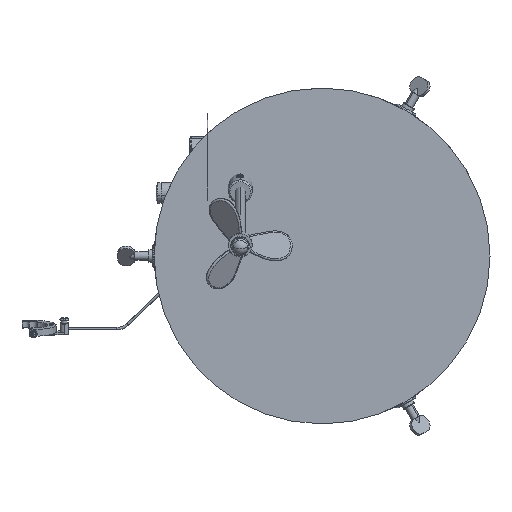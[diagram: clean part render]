
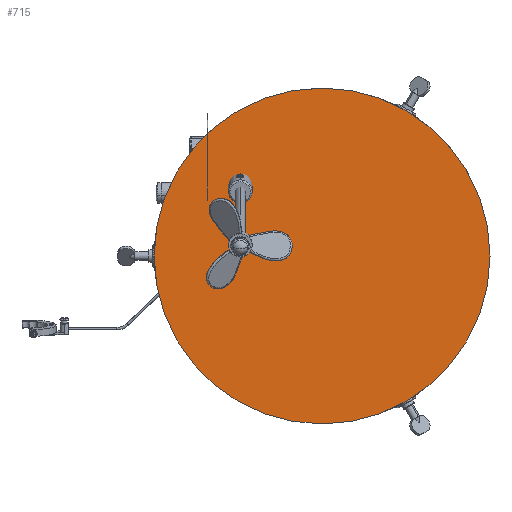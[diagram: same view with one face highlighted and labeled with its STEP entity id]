
A CAD part, front view. The second image highlights one B-rep face of the part: STEP entity #715.
In plain terms, the highlighted planar face has unit normal (0, -1, 0).
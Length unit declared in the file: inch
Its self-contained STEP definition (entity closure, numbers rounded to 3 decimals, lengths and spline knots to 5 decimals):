
#51=CARTESIAN_POINT('',(6.0935,0.,-6.09533));
#52=DIRECTION('',(0.,-1.,0.));
#53=DIRECTION('',(1.,0.,0.));
#54=AXIS2_PLACEMENT_3D('',#51,#52,#53);
#95=CARTESIAN_POINT('',(6.0935,0.,-6.09533));
#96=DIRECTION('',(0.,1.,0.));
#97=DIRECTION('',(1.,0.,0.));
#98=AXIS2_PLACEMENT_3D('',#95,#96,#97);
#622=CARTESIAN_POINT('',(12.2475,0.,-6.09533));
#624=VERTEX_POINT('',#622);
#626=CARTESIAN_POINT('',(-0.0605,0.,-6.09533));
#627=VERTEX_POINT('',#626);
#704=CARTESIAN_POINT('',(6.0935,0.,-6.09533));
#705=DIRECTION('',(0.,-1.,0.));
#706=DIRECTION('',(-1.,0.,0.));
#707=AXIS2_PLACEMENT_3D('',#704,#705,#706);
#708=PLANE('',#707);
#710=ORIENTED_EDGE('',*,*,#709,.T.);
#712=ORIENTED_EDGE('',*,*,#711,.F.);
#713=EDGE_LOOP('',(#710,#712));
#714=FACE_OUTER_BOUND('',#713,.F.);
#715=ADVANCED_FACE('',(#714),#708,.T.);
#55=CIRCLE('',#54,6.154);
#99=CIRCLE('',#98,6.154);
#709=EDGE_CURVE('',#624,#627,#99,.T.);
#711=EDGE_CURVE('',#624,#627,#55,.T.);
